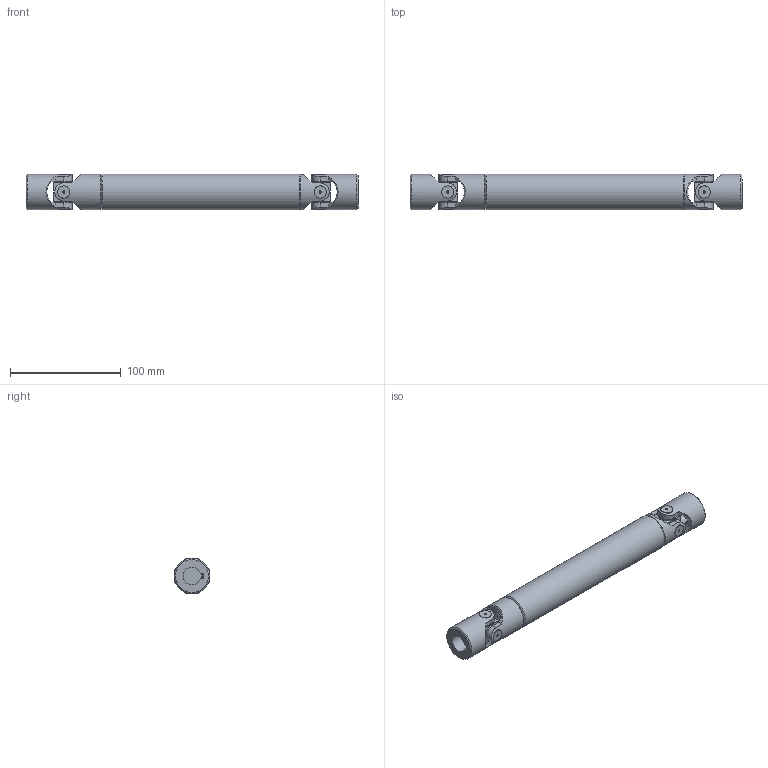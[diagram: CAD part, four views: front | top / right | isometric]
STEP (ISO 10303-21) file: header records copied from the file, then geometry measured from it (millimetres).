
FILE_DESCRIPTION(/* description */ (''),/* implementation_level */ '2;1');
FILE_NAME(/* name */ '\\SRV2016\Societa\Stefano\Disegni 3D\00Catalogo 3D\03Trasmissioni standard GA\1GA29\1GA29_SG0A1629.stp',/* time_stamp */ '2022-02-16T16:22:40+01:00',/* author */ ('acquisti'),/* organization */ (''),/* preprocessor_version */ 'ST-DEVELOPER v15.6',/* originating_system */ 'Autodesk Inventor 2015',/* authorisation */ '');
FILE_SCHEMA (('AUTOMOTIVE_DESIGN { 1 0 10303 214 3 1 1 }'));
Length unit declared in the file: millimetre
Products named in the file (5): 1GA29 LAI; 1GA29 LCI; 1G MOC; 1G SFE; 1GA29_SG0A1629
Assembly tree (6 placements, depth 2):
  1GA29_SG0A1629
    1GA29 LAI
    1GA29 LCI
    1G MOC  x2
    1G SFE  x2
Bounding box: 300 x 32.5 x 32.5 mm (x, y, z)
Volume: 173874 mm3; surface area: 70386.2 mm2
Topology: 6 solids, 6 shells, 228 faces, 551 edges, 359 vertices
Faces by surface type: plane 106, cylinder 93, cone 25, torus 4
Full cylindrical faces by diameter (mm): 2 x8, 15.5 x8, 16 x1, 18 x2, 27 x1, 32 x4, 32.5 x1
Entity records: 5689 total; most frequent: CARTESIAN_POINT 1639, DIRECTION 823, ORIENTED_EDGE 796, EDGE_CURVE 398, AXIS2_PLACEMENT_3D 335, VERTEX_POINT 274, EDGE_LOOP 224, FACE_OUTER_BOUND 176
